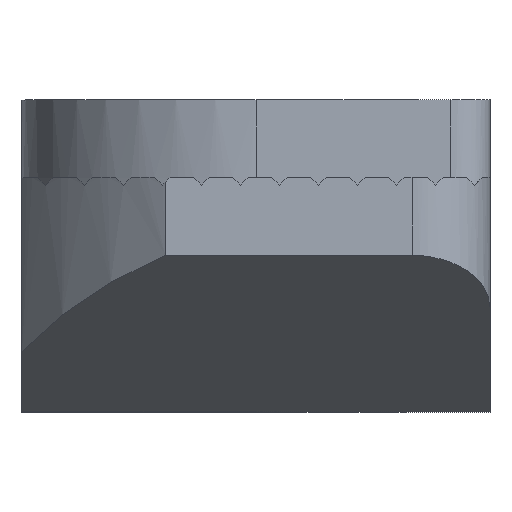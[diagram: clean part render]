
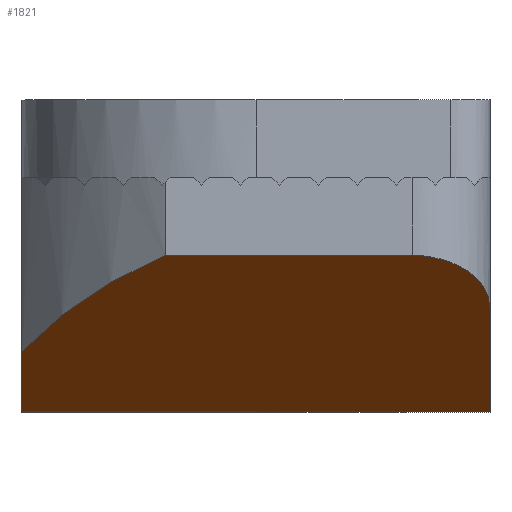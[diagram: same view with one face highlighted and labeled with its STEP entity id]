
A CAD part, top view. The second image highlights one B-rep face of the part: STEP entity #1821.
In plain terms, the highlighted planar face has unit normal (0, -0.832, 0.555).
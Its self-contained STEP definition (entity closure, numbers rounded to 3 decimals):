
#16 = EDGE_CURVE ( 'NONE', #2468, #2767, #571, .T. ) ;
#24 = EDGE_CURVE ( 'NONE', #2855, #274, #403, .T. ) ;
#66 = LINE ( 'NONE', #1903, #72 ) ;
#71 = DIRECTION ( 'NONE',  ( 1., 0., 0. ) ) ;
#72 = VECTOR ( 'NONE', #71, 1000. ) ;
#129 = CARTESIAN_POINT ( 'NONE',  ( -3., -3., 2. ) ) ;
#274 = VERTEX_POINT ( 'NONE', #2311 ) ;
#351 = CARTESIAN_POINT ( 'NONE',  ( -3., -2.225, 3.162 ) ) ;
#355 = CARTESIAN_POINT ( 'NONE',  ( 3., -1., 5. ) ) ;
#356 = CARTESIAN_POINT ( 'NONE',  ( 2., -1., 5. ) ) ;
#361 = CARTESIAN_POINT ( 'NONE',  ( 3., -1.667, 4. ) ) ;
#403 =( BOUNDED_CURVE ( )  B_SPLINE_CURVE ( 3, ( #361, #635, #2776, #356 ),
 .UNSPECIFIED., .F., .F. ) 
 B_SPLINE_CURVE_WITH_KNOTS ( ( 4, 4 ),
 ( 4.712, 6.283 ),
 .UNSPECIFIED. ) 
 CURVE ( )  GEOMETRIC_REPRESENTATION_ITEM ( )  RATIONAL_B_SPLINE_CURVE ( ( 1., 0.805, 0.805, 1. ) ) 
 REPRESENTATION_ITEM ( '' )  );
#407 = CARTESIAN_POINT ( 'NONE',  ( -3., -1., 5. ) ) ;
#459 = EDGE_CURVE ( 'NONE', #1357, #2248, #66, .T. ) ;
#571 =( BOUNDED_CURVE ( )  B_SPLINE_CURVE ( 3, ( #351, #1905, #2931, #3173 ),
 .UNSPECIFIED., .F., .F. ) 
 B_SPLINE_CURVE_WITH_KNOTS ( ( 4, 4 ),
 ( 5.276, 5.719 ),
 .UNSPECIFIED. ) 
 CURVE ( )  GEOMETRIC_REPRESENTATION_ITEM ( )  RATIONAL_B_SPLINE_CURVE ( ( 1., 0.984, 0.984, 1. ) ) 
 REPRESENTATION_ITEM ( '' )  );
#601 = ORIENTED_EDGE ( 'NONE', *, *, #459, .T. ) ;
#635 = CARTESIAN_POINT ( 'NONE',  ( 3., -1.276, 4.586 ) ) ;
#700 = DIRECTION ( 'NONE',  ( 0., 0.555, 0.832 ) ) ;
#722 = AXIS2_PLACEMENT_3D ( 'NONE', #407, #2224, #700 ) ;
#794 = DIRECTION ( 'NONE',  ( 0., 0.555, 0.832 ) ) ;
#801 = CARTESIAN_POINT ( 'NONE',  ( 3., -3., 2. ) ) ;
#856 = ORIENTED_EDGE ( 'NONE', *, *, #2770, .F. ) ;
#1065 = CARTESIAN_POINT ( 'NONE',  ( -3., -2.225, 3.162 ) ) ;
#1137 = FACE_OUTER_BOUND ( 'NONE', #2452, .T. ) ;
#1225 = ORIENTED_EDGE ( 'NONE', *, *, #2462, .F. ) ;
#1357 = VERTEX_POINT ( 'NONE', #129 ) ;
#1465 = ORIENTED_EDGE ( 'NONE', *, *, #24, .T. ) ;
#1697 = DIRECTION ( 'NONE',  ( 1., 0., 0. ) ) ;
#1821 = ADVANCED_FACE ( 'NONE', ( #1137 ), #1973, .F. ) ;
#1903 = CARTESIAN_POINT ( 'NONE',  ( -3., -3., 2. ) ) ;
#1905 = CARTESIAN_POINT ( 'NONE',  ( -2.529, -1.729, 3.906 ) ) ;
#1973 = PLANE ( 'NONE',  #722 ) ;
#2105 = LINE ( 'NONE', #355, #2170 ) ;
#2165 = DIRECTION ( 'NONE',  ( 0., 0.555, 0.832 ) ) ;
#2170 = VECTOR ( 'NONE', #2165, 1000. ) ;
#2204 = VECTOR ( 'NONE', #1697, 1000. ) ;
#2216 = LINE ( 'NONE', #2950, #2204 ) ;
#2224 = DIRECTION ( 'NONE',  ( 0., 0.832, -0.555 ) ) ;
#2248 = VERTEX_POINT ( 'NONE', #801 ) ;
#2311 = CARTESIAN_POINT ( 'NONE',  ( 2., -1., 5. ) ) ;
#2445 = CARTESIAN_POINT ( 'NONE',  ( 3., -1.667, 4. ) ) ;
#2452 = EDGE_LOOP ( 'NONE', ( #2848, #1225, #601, #3226, #1465, #856 ) ) ;
#2462 = EDGE_CURVE ( 'NONE', #1357, #2468, #3013, .T. ) ;
#2468 = VERTEX_POINT ( 'NONE', #1065 ) ;
#2496 = VECTOR ( 'NONE', #794, 1000. ) ;
#2767 = VERTEX_POINT ( 'NONE', #3196 ) ;
#2770 = EDGE_CURVE ( 'NONE', #2767, #274, #2216, .T. ) ;
#2776 = CARTESIAN_POINT ( 'NONE',  ( 2.586, -1., 5. ) ) ;
#2811 = EDGE_CURVE ( 'NONE', #2248, #2855, #2105, .T. ) ;
#2848 = ORIENTED_EDGE ( 'NONE', *, *, #16, .F. ) ;
#2855 = VERTEX_POINT ( 'NONE', #2445 ) ;
#2931 = CARTESIAN_POINT ( 'NONE',  ( -1.906, -1.314, 4.529 ) ) ;
#2950 = CARTESIAN_POINT ( 'NONE',  ( -3., -1., 5. ) ) ;
#3013 = LINE ( 'NONE', #3190, #2496 ) ;
#3173 = CARTESIAN_POINT ( 'NONE',  ( -1.162, -1., 5. ) ) ;
#3190 = CARTESIAN_POINT ( 'NONE',  ( -3., -1., 5. ) ) ;
#3196 = CARTESIAN_POINT ( 'NONE',  ( -1.162, -1., 5. ) ) ;
#3226 = ORIENTED_EDGE ( 'NONE', *, *, #2811, .T. ) ;
